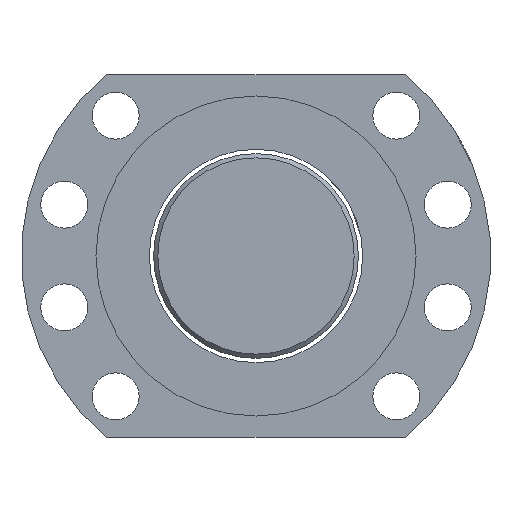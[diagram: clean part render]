
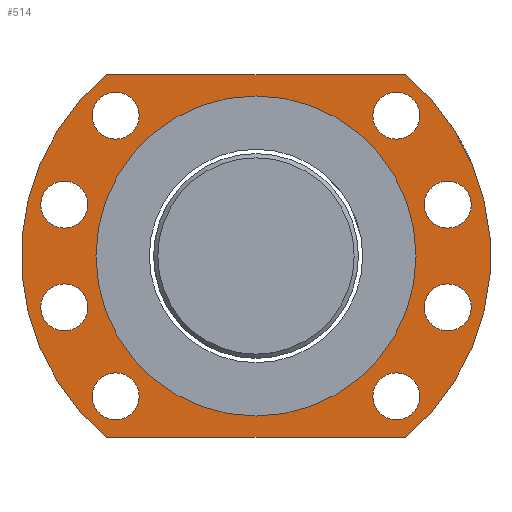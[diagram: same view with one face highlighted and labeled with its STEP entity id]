
A CAD part, left-side view. The second image highlights one B-rep face of the part: STEP entity #514.
In plain terms, the highlighted planar face has unit normal (-1, 0, 0).
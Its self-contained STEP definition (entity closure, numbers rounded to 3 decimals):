
#61=LINE('',#864,#69);
#64=LINE('',#870,#72);
#69=VECTOR('',#706,1000.);
#72=VECTOR('',#711,1000.);
#83=PLANE('',#605);
#161=ORIENTED_EDGE('',*,*,#229,.T.);
#162=ORIENTED_EDGE('',*,*,#231,.F.);
#163=ORIENTED_EDGE('',*,*,#235,.T.);
#164=ORIENTED_EDGE('',*,*,#253,.F.);
#165=ORIENTED_EDGE('',*,*,#250,.T.);
#166=ORIENTED_EDGE('',*,*,#247,.T.);
#167=ORIENTED_EDGE('',*,*,#217,.T.);
#168=ORIENTED_EDGE('',*,*,#244,.T.);
#169=ORIENTED_EDGE('',*,*,#243,.F.);
#170=ORIENTED_EDGE('',*,*,#241,.F.);
#171=ORIENTED_EDGE('',*,*,#239,.F.);
#172=ORIENTED_EDGE('',*,*,#237,.T.);
#173=ORIENTED_EDGE('',*,*,#233,.T.);
#217=EDGE_CURVE('',#271,#272,#316,.T.);
#229=EDGE_CURVE('',#283,#283,#322,.T.);
#231=EDGE_CURVE('',#285,#285,#324,.T.);
#233=EDGE_CURVE('',#287,#287,#326,.T.);
#235=EDGE_CURVE('',#289,#289,#328,.T.);
#237=EDGE_CURVE('',#291,#291,#330,.T.);
#239=EDGE_CURVE('',#293,#293,#332,.T.);
#241=EDGE_CURVE('',#295,#295,#334,.T.);
#243=EDGE_CURVE('',#297,#297,#336,.T.);
#244=EDGE_CURVE('',#272,#298,#61,.T.);
#247=EDGE_CURVE('',#300,#271,#64,.T.);
#250=EDGE_CURVE('',#298,#300,#337,.T.);
#253=EDGE_CURVE('',#303,#303,#340,.T.);
#271=VERTEX_POINT('',#782);
#272=VERTEX_POINT('',#783);
#283=VERTEX_POINT('',#827);
#285=VERTEX_POINT('',#832);
#287=VERTEX_POINT('',#837);
#289=VERTEX_POINT('',#842);
#291=VERTEX_POINT('',#847);
#293=VERTEX_POINT('',#852);
#295=VERTEX_POINT('',#857);
#297=VERTEX_POINT('',#862);
#298=VERTEX_POINT('',#865);
#300=VERTEX_POINT('',#871);
#303=VERTEX_POINT('',#882);
#316=CIRCLE('',#561,55.);
#322=CIRCLE('',#569,5.5);
#324=CIRCLE('',#572,5.5);
#326=CIRCLE('',#575,5.5);
#328=CIRCLE('',#578,5.5);
#330=CIRCLE('',#581,5.5);
#332=CIRCLE('',#584,5.5);
#334=CIRCLE('',#587,5.5);
#336=CIRCLE('',#590,5.5);
#337=CIRCLE('',#594,55.);
#340=CIRCLE('',#598,37.5);
#387=EDGE_LOOP('',(#161));
#388=EDGE_LOOP('',(#162));
#389=EDGE_LOOP('',(#163));
#390=EDGE_LOOP('',(#164));
#391=EDGE_LOOP('',(#165,#166,#167,#168));
#392=EDGE_LOOP('',(#169));
#393=EDGE_LOOP('',(#170));
#394=EDGE_LOOP('',(#171));
#395=EDGE_LOOP('',(#172));
#396=EDGE_LOOP('',(#173));
#458=FACE_BOUND('',#387,.T.);
#459=FACE_BOUND('',#388,.T.);
#460=FACE_BOUND('',#389,.T.);
#461=FACE_BOUND('',#390,.T.);
#462=FACE_BOUND('',#391,.T.);
#463=FACE_BOUND('',#392,.T.);
#464=FACE_BOUND('',#393,.T.);
#465=FACE_BOUND('',#394,.T.);
#466=FACE_BOUND('',#395,.T.);
#467=FACE_BOUND('',#396,.T.);
#514=ADVANCED_FACE('',(#458,#459,#460,#461,#462,#463,#464,#465,#466,#467),
#83,.T.);
#561=AXIS2_PLACEMENT_3D('',#781,#642,#643);
#569=AXIS2_PLACEMENT_3D('',#826,#660,#661);
#572=AXIS2_PLACEMENT_3D('',#831,#666,#667);
#575=AXIS2_PLACEMENT_3D('',#836,#672,#673);
#578=AXIS2_PLACEMENT_3D('',#841,#678,#679);
#581=AXIS2_PLACEMENT_3D('',#846,#684,#685);
#584=AXIS2_PLACEMENT_3D('',#851,#690,#691);
#587=AXIS2_PLACEMENT_3D('',#856,#696,#697);
#590=AXIS2_PLACEMENT_3D('',#861,#702,#703);
#594=AXIS2_PLACEMENT_3D('',#876,#716,#717);
#598=AXIS2_PLACEMENT_3D('',#881,#724,#725);
#605=AXIS2_PLACEMENT_3D('',#904,#738,#739);
#642=DIRECTION('',(-1.,0.,0.));
#643=DIRECTION('',(0.,0.,-1.));
#660=DIRECTION('',(1.,0.,0.));
#661=DIRECTION('',(0.,0.,1.));
#666=DIRECTION('',(-1.,0.,0.));
#667=DIRECTION('',(0.,0.,1.));
#672=DIRECTION('',(1.,0.,0.));
#673=DIRECTION('',(0.,0.,1.));
#678=DIRECTION('',(1.,0.,0.));
#679=DIRECTION('',(0.,0.,1.));
#684=DIRECTION('',(1.,0.,0.));
#685=DIRECTION('',(0.,0.,1.));
#690=DIRECTION('',(-1.,0.,0.));
#691=DIRECTION('',(0.,0.,1.));
#696=DIRECTION('',(-1.,0.,0.));
#697=DIRECTION('',(0.,0.,1.));
#702=DIRECTION('',(-1.,0.,0.));
#703=DIRECTION('',(0.,0.,1.));
#706=DIRECTION('',(0.,1.,0.));
#711=DIRECTION('',(0.,-1.,0.));
#716=DIRECTION('',(-1.,0.,0.));
#717=DIRECTION('',(0.,0.,-1.));
#724=DIRECTION('',(-1.,0.,0.));
#725=DIRECTION('',(0.,0.,-1.));
#738=DIRECTION('',(-1.,0.,0.));
#739=DIRECTION('',(0.,0.,-1.));
#781=CARTESIAN_POINT('',(10.287,0.174,10.77));
#782=CARTESIAN_POINT('',(10.287,-34.737,-31.73));
#783=CARTESIAN_POINT('',(10.287,-34.737,53.27));
#826=CARTESIAN_POINT('',(10.287,-32.707,43.65));
#827=CARTESIAN_POINT('',(10.287,-32.707,49.15));
#831=CARTESIAN_POINT('',(10.287,33.054,43.65));
#832=CARTESIAN_POINT('',(10.287,33.054,49.15));
#836=CARTESIAN_POINT('',(10.287,-44.742,22.805));
#837=CARTESIAN_POINT('',(10.287,-44.742,28.305));
#841=CARTESIAN_POINT('',(10.287,-44.742,-1.265));
#842=CARTESIAN_POINT('',(10.287,-44.742,4.235));
#846=CARTESIAN_POINT('',(10.287,-32.707,-22.111));
#847=CARTESIAN_POINT('',(10.287,-32.707,-16.611));
#851=CARTESIAN_POINT('',(10.287,33.054,-22.111));
#852=CARTESIAN_POINT('',(10.287,33.054,-16.611));
#856=CARTESIAN_POINT('',(10.287,45.089,22.805));
#857=CARTESIAN_POINT('',(10.287,45.089,28.305));
#861=CARTESIAN_POINT('',(10.287,45.089,-1.265));
#862=CARTESIAN_POINT('',(10.287,45.089,4.235));
#864=CARTESIAN_POINT('',(10.287,-34.737,53.27));
#865=CARTESIAN_POINT('',(10.287,35.084,53.27));
#870=CARTESIAN_POINT('',(10.287,35.084,-31.73));
#871=CARTESIAN_POINT('',(10.287,35.084,-31.73));
#876=CARTESIAN_POINT('',(10.287,0.174,10.77));
#881=CARTESIAN_POINT('',(10.287,0.174,10.77));
#882=CARTESIAN_POINT('',(10.287,0.174,-26.73));
#904=CARTESIAN_POINT('',(10.287,0.174,10.77));
